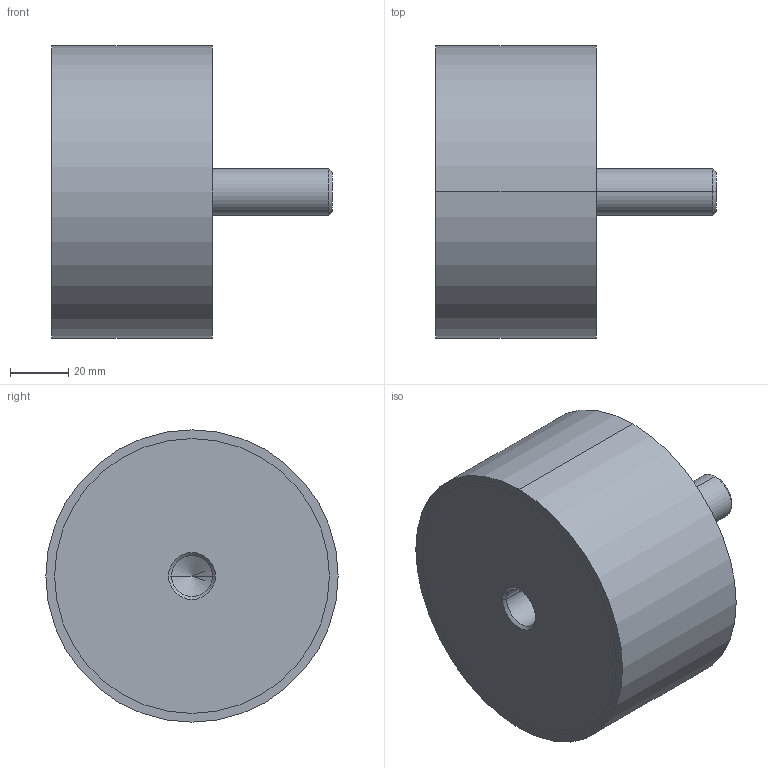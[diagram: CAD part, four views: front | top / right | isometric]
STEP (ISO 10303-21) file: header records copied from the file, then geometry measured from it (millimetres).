
FILE_DESCRIPTION (( 'STEP AP214' ), '1' );
FILE_NAME ('351-100-55-M16-ES-40.step', '2025-07-23T09:59:56', ( '' ), ( '' ), 'SwSTEP 2.0', 'SolidWorks 2022', '' );
FILE_SCHEMA (( 'AUTOMOTIVE_DESIGN' ));
Length unit declared in the file: millimetre
Products named in the file (1): 351-100-55-M16-ES-40
Bounding box: 96 x 100 x 100 mm (x, y, z)
Volume: 437124.6 mm3; surface area: 35782.2 mm2
Topology: 1 solids, 1 shells, 24 faces, 48 edges, 29 vertices
Faces by surface type: cylinder 12, cone 6, plane 6
Entity records: 740 total; most frequent: DIRECTION 124, CARTESIAN_POINT 100, ORIENTED_EDGE 92, AXIS2_PLACEMENT_3D 53, EDGE_CURVE 46, VERTEX_POINT 29, EDGE_LOOP 29, CIRCLE 28
